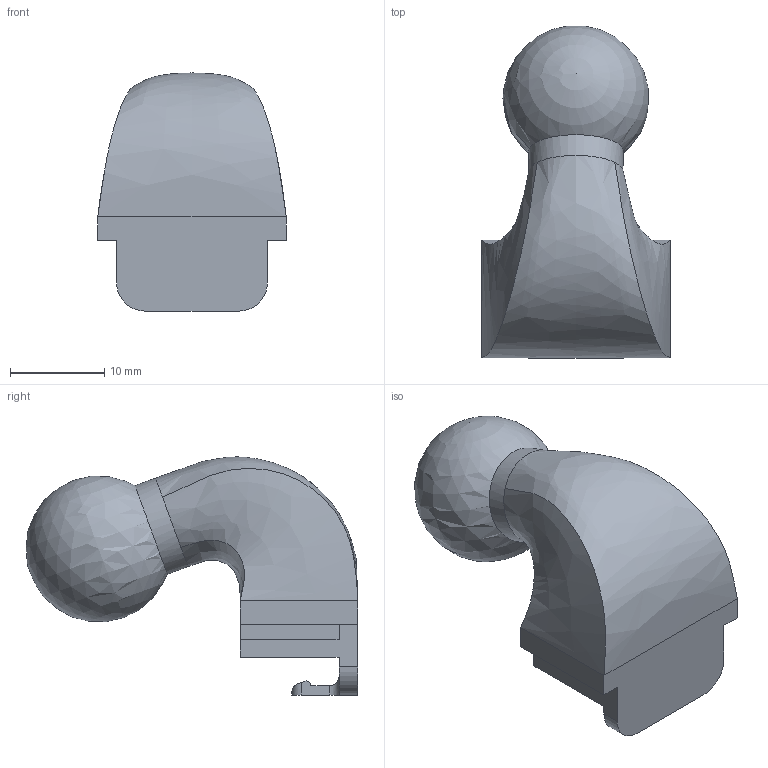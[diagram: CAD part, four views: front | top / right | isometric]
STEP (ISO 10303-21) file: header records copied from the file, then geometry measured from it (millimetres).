
FILE_DESCRIPTION(/* description */ (''),/* implementation_level */ '2;1');
FILE_NAME(/* name */ 'D:/Project/Freelander/Dashcam Short Mirror Ball.step',/* time_stamp */ '2019-04-18T11:55:30+02:00',/* author */ ('d.ganzinga'),/* organization */ (''),/* preprocessor_version */ 'ST-DEVELOPER v18',/* originating_system */ 'Autodesk Translation Framework v8.2.0.1029',/* authorisation */ '');
FILE_SCHEMA (('AUTOMOTIVE_DESIGN { 1 0 10303 214 3 1 1 }'));
Length unit declared in the file: millimetre
Products named in the file (1): Dashcam Short Mirror Ball
Bounding box: 20 x 35.2 x 25.27 mm (x, y, z)
Volume: 6862.8 mm3; surface area: 2659.8 mm2
Topology: 1 solids, 1 shells, 37 faces, 106 edges, 70 vertices
Faces by surface type: plane 22, cylinder 10, bspline 4, sphere 1
Full cylindrical faces by diameter (mm): 10 x1
Entity records: 1464 total; most frequent: CARTESIAN_POINT 464, ORIENTED_EDGE 208, DIRECTION 193, EDGE_CURVE 104, LINE 75, VECTOR 75, VERTEX_POINT 70, AXIS2_PLACEMENT_3D 59
